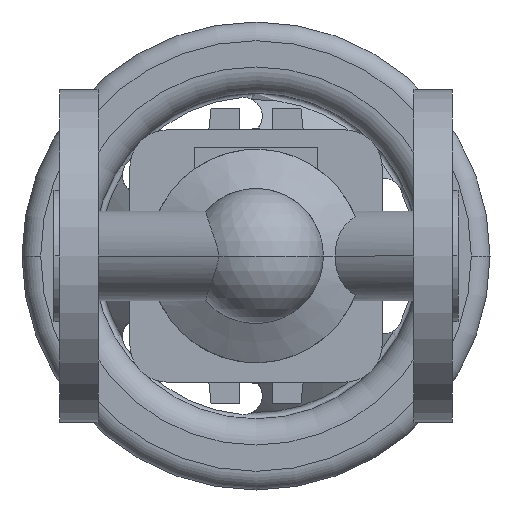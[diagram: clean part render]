
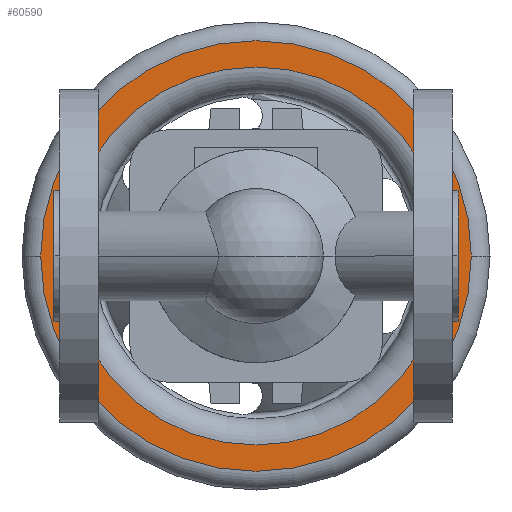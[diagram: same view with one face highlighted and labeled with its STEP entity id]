
A CAD part, front view. The second image highlights one B-rep face of the part: STEP entity #60590.
In plain terms, the highlighted planar face has unit normal (0, -1, 0).
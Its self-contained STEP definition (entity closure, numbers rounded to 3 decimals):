
#59950=CARTESIAN_POINT('',(-3.5,202.8,0.));
#59960=VERTEX_POINT('',#59950);
#59990=CARTESIAN_POINT('',(54.,202.8,0.));
#60000=DIRECTION('',(0.,1.,0.));
#60010=DIRECTION('',(-1.,0.,0.));
#60020=AXIS2_PLACEMENT_3D('',#59990,#60000,#60010);
#60030=CIRCLE('',#60020,57.5);
#60040=CARTESIAN_POINT('',(111.5,202.8,0.));
#60050=VERTEX_POINT('',#60040);
#60060=EDGE_CURVE('',#60050,#59960,#60030,.T.);
#60260=CARTESIAN_POINT('',(0.,202.8,0.));
#60270=DIRECTION('',(0.,-1.,0.));
#60280=DIRECTION('',(1.,0.,0.));
#60290=AXIS2_PLACEMENT_3D('',#60260,#60270,#60280);
#60300=PLANE('',#60290);
#60310=CARTESIAN_POINT('',(54.,202.8,57.5));
#60320=VERTEX_POINT('',#60310);
#60330=EDGE_CURVE('',#60320,#60050,#60030,.T.);
#60340=ORIENTED_EDGE('',*,*,#60330,.F.);
#60350=ORIENTED_EDGE('',*,*,#60060,.F.);
#60360=EDGE_CURVE('',#59960,#60320,#60030,.T.);
#60370=ORIENTED_EDGE('',*,*,#60360,.F.);
#60380=EDGE_LOOP('',(#60370,#60350,#60340));
#60390=FACE_OUTER_BOUND('',#60380,.T.);
#60400=CARTESIAN_POINT('',(54.,202.8,0.));
#60410=DIRECTION('',(0.,1.,0.));
#60420=DIRECTION('',(-1.,0.,0.));
#60430=AXIS2_PLACEMENT_3D('',#60400,#60410,#60420);
#60440=CIRCLE('',#60430,50.5);
#60450=CARTESIAN_POINT('',(3.5,202.8,0.));
#60460=VERTEX_POINT('',#60450);
#60470=CARTESIAN_POINT('',(104.5,202.8,0.));
#60480=VERTEX_POINT('',#60470);
#60490=EDGE_CURVE('',#60460,#60480,#60440,.T.);
#60500=ORIENTED_EDGE('',*,*,#60490,.T.);
#60510=CARTESIAN_POINT('',(54.,202.8,-50.5));
#60520=VERTEX_POINT('',#60510);
#60530=EDGE_CURVE('',#60520,#60460,#60440,.T.);
#60540=ORIENTED_EDGE('',*,*,#60530,.T.);
#60550=EDGE_CURVE('',#60480,#60520,#60440,.T.);
#60560=ORIENTED_EDGE('',*,*,#60550,.T.);
#60570=EDGE_LOOP('',(#60560,#60540,#60500));
#60580=FACE_BOUND('',#60570,.T.);
#60590=ADVANCED_FACE('',(#60390,#60580),#60300,.T.);
